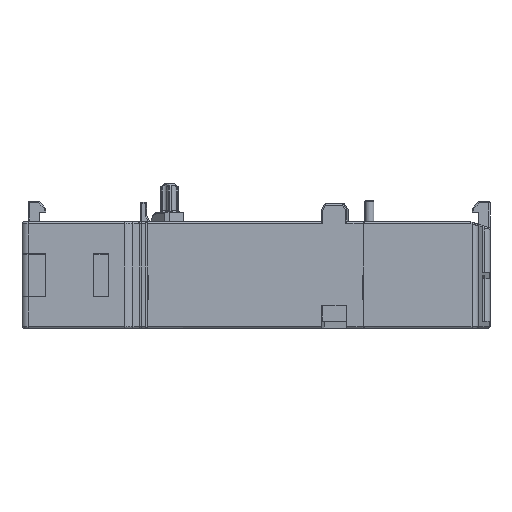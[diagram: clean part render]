
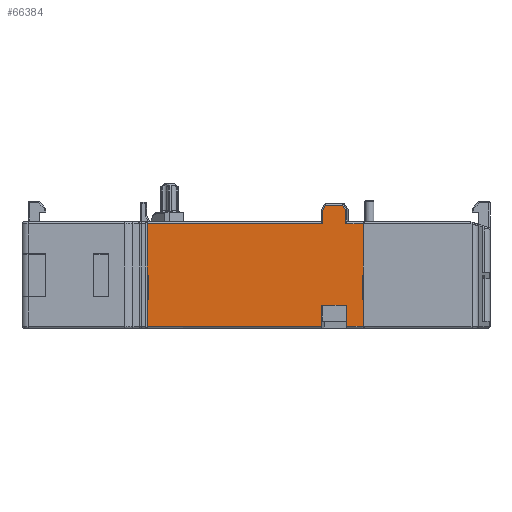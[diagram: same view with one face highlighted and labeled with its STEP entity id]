
A CAD part, front view. The second image highlights one B-rep face of the part: STEP entity #66384.
In plain terms, the highlighted planar face has unit normal (0, -1, 0).
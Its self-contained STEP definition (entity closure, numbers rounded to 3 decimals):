
#1084=DIRECTION('',(0.,0.,1.));
#1085=VECTOR('',#1084,4.55);
#1086=CARTESIAN_POINT('',(9.8,-46.,0.3));
#1087=LINE('',#1086,#1085);
#1100=DIRECTION('',(-1.,0.,0.));
#1101=VECTOR('',#1100,0.1);
#1102=CARTESIAN_POINT('',(9.8,-46.,8.85));
#1103=LINE('',#1102,#1101);
#10010=DIRECTION('',(0.,0.,-1.));
#10011=VECTOR('',#10010,4.);
#10012=CARTESIAN_POINT('',(-26.,-46.,8.85));
#10013=LINE('',#10012,#10011);
#10014=DIRECTION('',(-1.,0.,0.));
#10015=VECTOR('',#10014,0.2);
#10016=CARTESIAN_POINT('',(-26.,-46.,8.85));
#10017=LINE('',#10016,#10015);
#15059=CARTESIAN_POINT('',(2.805,-46.,0.3));
#15087=DIRECTION('',(1.,0.,0.));
#15088=VECTOR('',#15087,0.2);
#15089=CARTESIAN_POINT('',(-26.2,-46.,4.85));
#15090=LINE('',#15089,#15088);
#15091=DIRECTION('',(0.,0.,-1.));
#15092=VECTOR('',#15091,8.55);
#15093=CARTESIAN_POINT('',(-26.2,-46.,17.4));
#15094=LINE('',#15093,#15092);
#15095=DIRECTION('',(1.,0.,0.));
#15096=VECTOR('',#15095,29.192);
#15097=CARTESIAN_POINT('',(-26.2,-46.,17.4));
#15098=LINE('',#15097,#15096);
#15099=DIRECTION('',(-0.506,0.,-0.863));
#15100=VECTOR('',#15099,0.989);
#15101=CARTESIAN_POINT('',(3.493,-46.,20.5));
#15102=LINE('',#15101,#15100);
#15103=DIRECTION('',(1.,0.,0.));
#15104=VECTOR('',#15103,2.858);
#15105=CARTESIAN_POINT('',(3.493,-46.,20.5));
#15106=LINE('',#15105,#15104);
#15107=DIRECTION('',(-0.506,0.,0.863));
#15108=VECTOR('',#15107,0.989);
#15109=CARTESIAN_POINT('',(6.851,-46.,19.646));
#15110=LINE('',#15109,#15108);
#15111=DIRECTION('',(1.,0.,0.));
#15112=VECTOR('',#15111,2.949);
#15113=CARTESIAN_POINT('',(6.851,-46.,17.4));
#15114=LINE('',#15113,#15112);
#15115=DIRECTION('',(0.,0.,-1.));
#15116=VECTOR('',#15115,8.55);
#15117=CARTESIAN_POINT('',(9.8,-46.,17.4));
#15118=LINE('',#15117,#15116);
#15119=DIRECTION('',(0.,0.,-1.));
#15120=VECTOR('',#15119,4.);
#15121=CARTESIAN_POINT('',(9.7,-46.,8.85));
#15122=LINE('',#15121,#15120);
#15123=DIRECTION('',(1.,0.,0.));
#15124=VECTOR('',#15123,0.1);
#15125=CARTESIAN_POINT('',(9.7,-46.,4.85));
#15126=LINE('',#15125,#15124);
#15127=DIRECTION('',(-1.,0.,0.));
#15128=VECTOR('',#15127,2.832);
#15129=CARTESIAN_POINT('',(9.8,-46.,0.3));
#15130=LINE('',#15129,#15128);
#15131=DIRECTION('',(0.,0.,1.));
#15132=VECTOR('',#15131,3.5);
#15133=CARTESIAN_POINT('',(6.968,-46.,0.3));
#15134=LINE('',#15133,#15132);
#15135=DIRECTION('',(-1.,0.,0.));
#15136=VECTOR('',#15135,4.163);
#15137=CARTESIAN_POINT('',(6.968,-46.,3.8));
#15138=LINE('',#15137,#15136);
#15139=DIRECTION('',(0.,0.,1.));
#15140=VECTOR('',#15139,3.5);
#15141=CARTESIAN_POINT('',(2.805,-46.,0.3));
#15142=LINE('',#15141,#15140);
#15143=DIRECTION('',(-1.,0.,0.));
#15144=VECTOR('',#15143,29.005);
#15145=CARTESIAN_POINT('',(2.805,-46.,0.3));
#15146=LINE('',#15145,#15144);
#15147=DIRECTION('',(0.,0.,1.));
#15148=VECTOR('',#15147,4.55);
#15149=CARTESIAN_POINT('',(-26.2,-46.,0.3));
#15150=LINE('',#15149,#15148);
#15408=DIRECTION('',(0.,0.,-1.));
#15409=VECTOR('',#15408,2.246);
#15410=CARTESIAN_POINT('',(2.992,-46.,19.646));
#15411=LINE('',#15410,#15409);
#30777=DIRECTION('',(0.,0.,1.));
#30778=VECTOR('',#30777,2.246);
#30779=CARTESIAN_POINT('',(6.851,-46.,17.4));
#30780=LINE('',#30779,#30778);
#31089=CARTESIAN_POINT('',(6.968,-46.,0.3));
#38602=CARTESIAN_POINT('',(6.968,-46.,3.8));
#38603=CARTESIAN_POINT('',(2.805,-46.,3.8));
#38604=VERTEX_POINT('',#38602);
#38605=VERTEX_POINT('',#38603);
#39500=CARTESIAN_POINT('',(-26.2,-46.,4.85));
#39501=VERTEX_POINT('',#39500);
#39502=CARTESIAN_POINT('',(9.8,-46.,4.85));
#39503=VERTEX_POINT('',#39502);
#39957=CARTESIAN_POINT('',(9.8,-46.,0.3));
#39958=VERTEX_POINT('',#39957);
#39960=VERTEX_POINT('',#31089);
#39961=VERTEX_POINT('',#15059);
#39965=CARTESIAN_POINT('',(-26.2,-46.,0.3));
#39966=VERTEX_POINT('',#39965);
#45995=CARTESIAN_POINT('',(9.7,-46.,8.85));
#45997=VERTEX_POINT('',#45995);
#45998=CARTESIAN_POINT('',(-26.,-46.,8.85));
#46000=VERTEX_POINT('',#45998);
#46168=CARTESIAN_POINT('',(3.493,-46.,20.5));
#46169=CARTESIAN_POINT('',(6.351,-46.,20.5));
#46170=VERTEX_POINT('',#46168);
#46171=VERTEX_POINT('',#46169);
#46176=CARTESIAN_POINT('',(6.851,-46.,19.646));
#46177=VERTEX_POINT('',#46176);
#46198=CARTESIAN_POINT('',(2.992,-46.,19.646));
#46199=VERTEX_POINT('',#46198);
#47242=CARTESIAN_POINT('',(-26.2,-46.,17.4));
#47243=VERTEX_POINT('',#47242);
#47244=CARTESIAN_POINT('',(2.992,-46.,17.4));
#47245=VERTEX_POINT('',#47244);
#47252=CARTESIAN_POINT('',(6.851,-46.,17.4));
#47253=CARTESIAN_POINT('',(9.8,-46.,17.4));
#47254=VERTEX_POINT('',#47252);
#47255=VERTEX_POINT('',#47253);
#47347=CARTESIAN_POINT('',(9.8,-46.,8.85));
#47349=VERTEX_POINT('',#47347);
#47456=CARTESIAN_POINT('',(-26.2,-46.,8.85));
#47458=VERTEX_POINT('',#47456);
#47518=CARTESIAN_POINT('',(9.7,-46.,4.85));
#47519=VERTEX_POINT('',#47518);
#47520=CARTESIAN_POINT('',(-26.,-46.,4.85));
#47521=VERTEX_POINT('',#47520);
#66345=CARTESIAN_POINT('',(-27.2,-46.,1.15));
#66346=DIRECTION('',(0.,-1.,0.));
#66347=DIRECTION('',(1.,0.,0.));
#66348=AXIS2_PLACEMENT_3D('',#66345,#66346,#66347);
#66349=PLANE('',#66348);
#66350=ORIENTED_EDGE('',*,*,#59324,.T.);
#66351=ORIENTED_EDGE('',*,*,#59346,.F.);
#66352=ORIENTED_EDGE('',*,*,#59358,.T.);
#66353=ORIENTED_EDGE('',*,*,#59374,.F.);
#66355=ORIENTED_EDGE('',*,*,#66354,.T.);
#66357=ORIENTED_EDGE('',*,*,#66356,.F.);
#66359=ORIENTED_EDGE('',*,*,#66358,.F.);
#66361=ORIENTED_EDGE('',*,*,#66360,.T.);
#66363=ORIENTED_EDGE('',*,*,#66362,.F.);
#66365=ORIENTED_EDGE('',*,*,#66364,.F.);
#66367=ORIENTED_EDGE('',*,*,#66366,.T.);
#66368=ORIENTED_EDGE('',*,*,#48850,.T.);
#66369=ORIENTED_EDGE('',*,*,#48878,.T.);
#66371=ORIENTED_EDGE('',*,*,#66370,.T.);
#66372=ORIENTED_EDGE('',*,*,#59330,.T.);
#66373=ORIENTED_EDGE('',*,*,#48857,.F.);
#66375=ORIENTED_EDGE('',*,*,#66374,.T.);
#66377=ORIENTED_EDGE('',*,*,#66376,.T.);
#66378=ORIENTED_EDGE('',*,*,#66338,.T.);
#66379=ORIENTED_EDGE('',*,*,#66293,.F.);
#66380=ORIENTED_EDGE('',*,*,#66277,.T.);
#66381=ORIENTED_EDGE('',*,*,#59381,.T.);
#66382=EDGE_LOOP('',(#66350,#66351,#66352,#66353,#66355,#66357,#66359,#66361,
#66363,#66365,#66367,#66368,#66369,#66371,#66372,#66373,#66375,#66377,#66378,
#66379,#66380,#66381));
#66383=FACE_OUTER_BOUND('',#66382,.F.);
#66384=ADVANCED_FACE('',(#66383),#66349,.T.);
#48850=EDGE_CURVE('',#47255,#47349,#15118,.T.);
#48857=EDGE_CURVE('',#39958,#39503,#1087,.T.);
#48878=EDGE_CURVE('',#47349,#45997,#1103,.T.);
#59324=EDGE_CURVE('',#39501,#47521,#15090,.T.);
#59330=EDGE_CURVE('',#47519,#39503,#15126,.T.);
#59346=EDGE_CURVE('',#46000,#47521,#10013,.T.);
#59358=EDGE_CURVE('',#46000,#47458,#10017,.T.);
#59374=EDGE_CURVE('',#47243,#47458,#15094,.T.);
#59381=EDGE_CURVE('',#39966,#39501,#15150,.T.);
#66277=EDGE_CURVE('',#39961,#39966,#15146,.T.);
#66293=EDGE_CURVE('',#39961,#38605,#15142,.T.);
#66338=EDGE_CURVE('',#38604,#38605,#15138,.T.);
#66354=EDGE_CURVE('',#47243,#47245,#15098,.T.);
#66356=EDGE_CURVE('',#46199,#47245,#15411,.T.);
#66358=EDGE_CURVE('',#46170,#46199,#15102,.T.);
#66360=EDGE_CURVE('',#46170,#46171,#15106,.T.);
#66362=EDGE_CURVE('',#46177,#46171,#15110,.T.);
#66364=EDGE_CURVE('',#47254,#46177,#30780,.T.);
#66366=EDGE_CURVE('',#47254,#47255,#15114,.T.);
#66370=EDGE_CURVE('',#45997,#47519,#15122,.T.);
#66374=EDGE_CURVE('',#39958,#39960,#15130,.T.);
#66376=EDGE_CURVE('',#39960,#38604,#15134,.T.);
